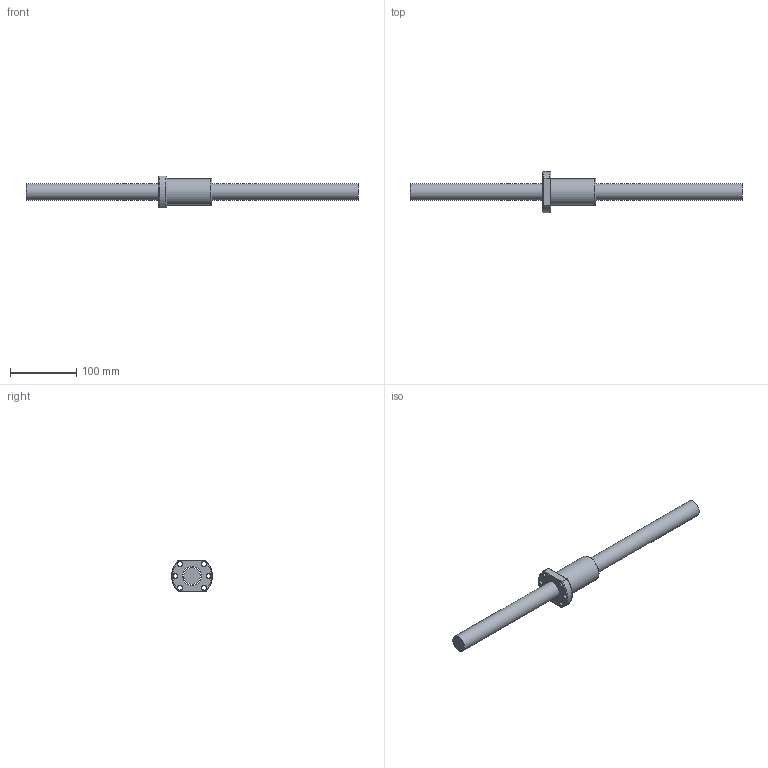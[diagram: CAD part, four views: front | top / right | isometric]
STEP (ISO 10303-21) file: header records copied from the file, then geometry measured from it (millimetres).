
FILE_DESCRIPTION (( 'STEP AP203' ), '1' );
FILE_NAME ('SFNU02510D-4.step', '2024-05-14T06:34:29', ( '' ), ( '' ), 'SwSTEP 2.0', 'SolidWorks 2022', '' );
FILE_SCHEMA (( 'CONFIG_CONTROL_DESIGN' ));
Length unit declared in the file: millimetre
Products named in the file (1): SFNU02510D-4
Bounding box: 500 x 61.9 x 48 mm (x, y, z)
Volume: 309553.2 mm3; surface area: 63132.2 mm2
Topology: 2 solids, 2 shells, 54 faces, 169 edges, 108 vertices
Faces by surface type: cylinder 19, cone 13, plane 12, bspline 5, torus 5
Full cylindrical faces by diameter (mm): 4 x1, 5 x6, 6.6 x6, 25 x1, 28.2 x1, 40 x1
Entity records: 3365 total; most frequent: CARTESIAN_POINT 2209, ORIENTED_EDGE 214, DIRECTION 210, EDGE_CURVE 107, AXIS2_PLACEMENT_3D 97, VERTEX_POINT 79, EDGE_LOOP 78, FACE_OUTER_BOUND 60
